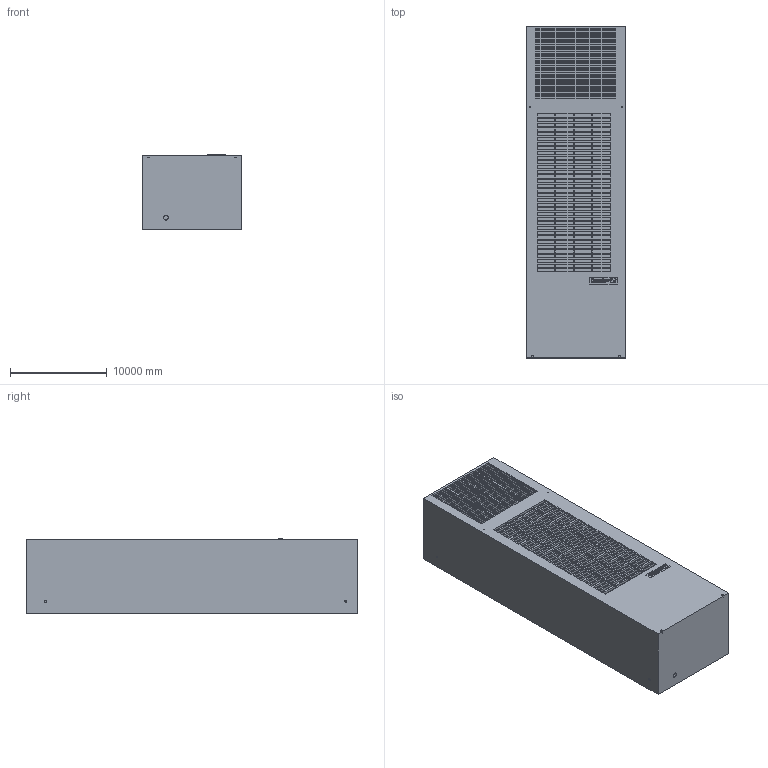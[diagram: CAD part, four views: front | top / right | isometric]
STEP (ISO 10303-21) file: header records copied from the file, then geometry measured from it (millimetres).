
FILE_DESCRIPTION (( 'STEP AP203' ), '1' );
FILE_NAME ('Step DTS3265.STEP', '2009-04-22T12:40:56', ( ' ' ), ( ' ' ), 'SwSTEP 2.0', 'SolidWorks 2008', '' );
FILE_SCHEMA (( 'CONFIG_CONTROL_DESIGN' ));
Products named in the file (1): Step DTS3265
Bounding box: 10301.22 x 34224.47 x 7829.83 mm (x, y, z)
Volume: 2644680560204.2 mm3; surface area: 1787829255 mm2
Topology: 1 solids, 1 shells, 1966 faces, 4858 edges, 3238 vertices
Faces by surface type: plane 1660, bspline 246, cylinder 60
Entity records: 68649 total; most frequent: CARTESIAN_POINT 23317, ORIENTED_EDGE 9716, DIRECTION 7928, EDGE_CURVE 4858, VECTOR 4246, LINE 4246, VERTEX_POINT 3238, EDGE_LOOP 2316
